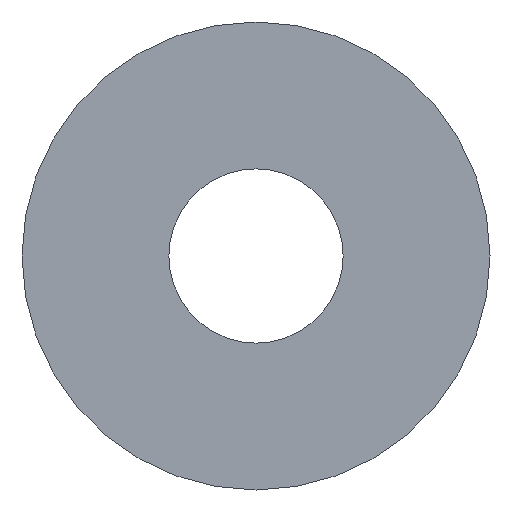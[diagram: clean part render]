
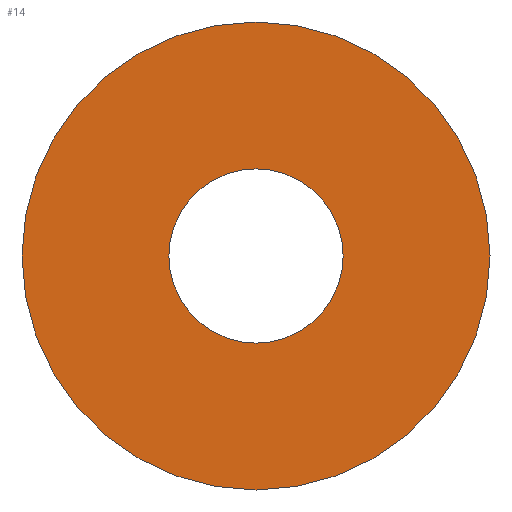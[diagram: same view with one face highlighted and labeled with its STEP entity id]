
A CAD part, front view. The second image highlights one B-rep face of the part: STEP entity #14.
In plain terms, the highlighted planar face has unit normal (0, -1, 0).
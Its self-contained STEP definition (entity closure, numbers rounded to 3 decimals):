
#1 = EDGE_LOOP ( 'NONE', ( #66, #37 ) ) ;
#14 = ADVANCED_FACE ( 'NONE', ( #248, #94 ), #134, .F. ) ;
#17 = AXIS2_PLACEMENT_3D ( 'NONE', #141, #136, #58 ) ;
#19 = VERTEX_POINT ( 'NONE', #182 ) ;
#23 = VERTEX_POINT ( 'NONE', #231 ) ;
#37 = ORIENTED_EDGE ( 'NONE', *, *, #62, .F. ) ;
#42 = CARTESIAN_POINT ( 'NONE',  ( 0., 0., 0. ) ) ;
#46 = CARTESIAN_POINT ( 'NONE',  ( 0., 0., -241. ) ) ;
#49 = AXIS2_PLACEMENT_3D ( 'NONE', #160, #57, #56 ) ;
#56 = DIRECTION ( 'NONE',  ( 0., 0., 1. ) ) ;
#57 = DIRECTION ( 'NONE',  ( 0., 1., 0. ) ) ;
#58 = DIRECTION ( 'NONE',  ( 0., 0., 1. ) ) ;
#61 = DIRECTION ( 'NONE',  ( 0., 0., 1. ) ) ;
#62 = EDGE_CURVE ( 'NONE', #88, #23, #237, .T. ) ;
#66 = ORIENTED_EDGE ( 'NONE', *, *, #144, .F. ) ;
#67 = EDGE_LOOP ( 'NONE', ( #125, #96 ) ) ;
#76 = CARTESIAN_POINT ( 'NONE',  ( 0., 0., 647. ) ) ;
#81 = DIRECTION ( 'NONE',  ( 0., 0., 1. ) ) ;
#85 = CIRCLE ( 'NONE', #225, 241. ) ;
#88 = VERTEX_POINT ( 'NONE', #76 ) ;
#91 = AXIS2_PLACEMENT_3D ( 'NONE', #42, #167, #81 ) ;
#94 = FACE_BOUND ( 'NONE', #67, .T. ) ;
#96 = ORIENTED_EDGE ( 'NONE', *, *, #153, .T. ) ;
#103 = AXIS2_PLACEMENT_3D ( 'NONE', #181, #118, #61 ) ;
#114 = DIRECTION ( 'NONE',  ( 0., 1., 0. ) ) ;
#118 = DIRECTION ( 'NONE',  ( 0., 1., 0. ) ) ;
#119 = CIRCLE ( 'NONE', #91, 241. ) ;
#125 = ORIENTED_EDGE ( 'NONE', *, *, #211, .T. ) ;
#128 = CIRCLE ( 'NONE', #17, 647. ) ;
#134 = PLANE ( 'NONE',  #49 ) ;
#136 = DIRECTION ( 'NONE',  ( 0., 1., 0. ) ) ;
#141 = CARTESIAN_POINT ( 'NONE',  ( 0., 0., 0. ) ) ;
#144 = EDGE_CURVE ( 'NONE', #23, #88, #128, .T. ) ;
#153 = EDGE_CURVE ( 'NONE', #19, #219, #85, .T. ) ;
#157 = CARTESIAN_POINT ( 'NONE',  ( 0., 0., 0. ) ) ;
#160 = CARTESIAN_POINT ( 'NONE',  ( 0., 0., 0. ) ) ;
#167 = DIRECTION ( 'NONE',  ( 0., 1., 0. ) ) ;
#181 = CARTESIAN_POINT ( 'NONE',  ( 0., 0., 0. ) ) ;
#182 = CARTESIAN_POINT ( 'NONE',  ( 0., 0., 241. ) ) ;
#211 = EDGE_CURVE ( 'NONE', #219, #19, #119, .T. ) ;
#219 = VERTEX_POINT ( 'NONE', #46 ) ;
#225 = AXIS2_PLACEMENT_3D ( 'NONE', #157, #114, #230 ) ;
#230 = DIRECTION ( 'NONE',  ( 0., 0., 1. ) ) ;
#231 = CARTESIAN_POINT ( 'NONE',  ( 0., 0., -647. ) ) ;
#237 = CIRCLE ( 'NONE', #103, 647. ) ;
#248 = FACE_OUTER_BOUND ( 'NONE', #1, .T. ) ;
